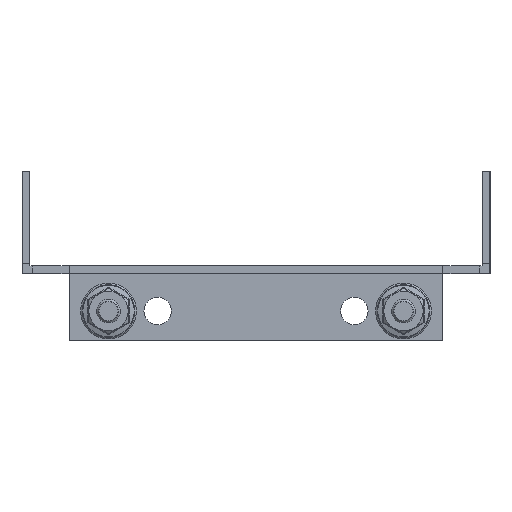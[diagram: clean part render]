
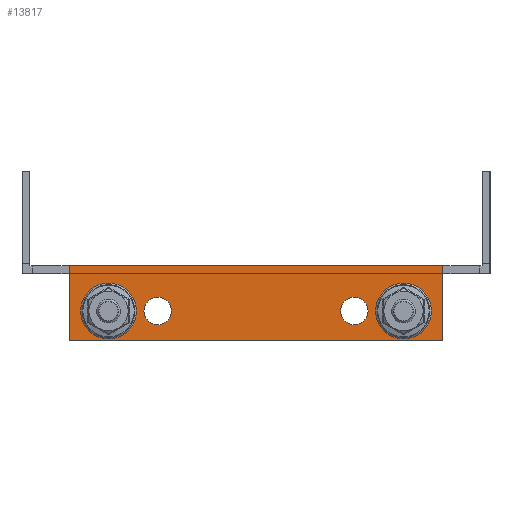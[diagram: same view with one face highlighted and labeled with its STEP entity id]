
A CAD part, left-side view. The second image highlights one B-rep face of the part: STEP entity #13817.
In plain terms, the highlighted planar face has unit normal (-1, 0, 0).
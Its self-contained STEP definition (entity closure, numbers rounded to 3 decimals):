
#2384 = VERTEX_POINT('',#2385);
#2385 = CARTESIAN_POINT('',(-350.,47.5,2.));
#2391 = EDGE_CURVE('',#2392,#2384,#2394,.T.);
#2392 = VERTEX_POINT('',#2393);
#2393 = CARTESIAN_POINT('',(-350.,-47.5,2.));
#2394 = LINE('',#2395,#2396);
#2395 = CARTESIAN_POINT('',(-350.,-57.5,2.));
#2396 = VECTOR('',#2397,1.);
#2397 = DIRECTION('',(-0.,1.,-0.));
#13696 = VERTEX_POINT('',#13697);
#13697 = CARTESIAN_POINT('',(-350.,-47.5,-0.6));
#13712 = EDGE_CURVE('',#13696,#2392,#13713,.T.);
#13713 = LINE('',#13714,#13715);
#13714 = CARTESIAN_POINT('',(-350.,-47.5,-0.6));
#13715 = VECTOR('',#13716,1.);
#13716 = DIRECTION('',(0.,-0.,1.));
#13736 = VERTEX_POINT('',#13737);
#13737 = CARTESIAN_POINT('',(-350.,47.5,-0.6));
#13743 = EDGE_CURVE('',#13736,#2384,#13744,.T.);
#13744 = LINE('',#13745,#13746);
#13745 = CARTESIAN_POINT('',(-350.,47.5,0.));
#13746 = VECTOR('',#13747,1.);
#13747 = DIRECTION('',(0.,0.,1.));
#13759 = EDGE_CURVE('',#13760,#13736,#13762,.T.);
#13760 = VERTEX_POINT('',#13761);
#13761 = CARTESIAN_POINT('',(-350.,47.5,-17.));
#13762 = LINE('',#13763,#13764);
#13763 = CARTESIAN_POINT('',(-350.,47.5,0.));
#13764 = VECTOR('',#13765,1.);
#13765 = DIRECTION('',(0.,-0.,1.));
#13799 = EDGE_CURVE('',#13696,#13800,#13802,.T.);
#13800 = VERTEX_POINT('',#13801);
#13801 = CARTESIAN_POINT('',(-350.,-47.5,-17.));
#13802 = LINE('',#13803,#13804);
#13803 = CARTESIAN_POINT('',(-350.,-47.5,-17.));
#13804 = VECTOR('',#13805,1.);
#13805 = DIRECTION('',(0.,-0.,-1.));
#13817 = ADVANCED_FACE('',(#13818,#13838,#13858,#13869,#13880),#13893,
  .T.);
#13818 = FACE_BOUND('',#13819,.T.);
#13819 = EDGE_LOOP('',(#13820,#13831));
#13820 = ORIENTED_EDGE('',*,*,#13821,.F.);
#13821 = EDGE_CURVE('',#13822,#13824,#13826,.T.);
#13822 = VERTEX_POINT('',#13823);
#13823 = CARTESIAN_POINT('',(-350.,-37.5,-13.));
#13824 = VERTEX_POINT('',#13825);
#13825 = CARTESIAN_POINT('',(-350.,-37.5,-6.));
#13826 = CIRCLE('',#13827,3.5);
#13827 = AXIS2_PLACEMENT_3D('',#13828,#13829,#13830);
#13828 = CARTESIAN_POINT('',(-350.,-37.5,-9.5));
#13829 = DIRECTION('',(-1.,0.,0.));
#13830 = DIRECTION('',(0.,0.,-1.));
#13831 = ORIENTED_EDGE('',*,*,#13832,.F.);
#13832 = EDGE_CURVE('',#13824,#13822,#13833,.T.);
#13833 = CIRCLE('',#13834,3.5);
#13834 = AXIS2_PLACEMENT_3D('',#13835,#13836,#13837);
#13835 = CARTESIAN_POINT('',(-350.,-37.5,-9.5));
#13836 = DIRECTION('',(-1.,0.,0.));
#13837 = DIRECTION('',(0.,0.,-1.));
#13838 = FACE_BOUND('',#13839,.T.);
#13839 = EDGE_LOOP('',(#13840,#13851));
#13840 = ORIENTED_EDGE('',*,*,#13841,.F.);
#13841 = EDGE_CURVE('',#13842,#13844,#13846,.T.);
#13842 = VERTEX_POINT('',#13843);
#13843 = CARTESIAN_POINT('',(-350.,-25.,-13.));
#13844 = VERTEX_POINT('',#13845);
#13845 = CARTESIAN_POINT('',(-350.,-25.,-6.));
#13846 = CIRCLE('',#13847,3.5);
#13847 = AXIS2_PLACEMENT_3D('',#13848,#13849,#13850);
#13848 = CARTESIAN_POINT('',(-350.,-25.,-9.5));
#13849 = DIRECTION('',(-1.,0.,0.));
#13850 = DIRECTION('',(0.,0.,-1.));
#13851 = ORIENTED_EDGE('',*,*,#13852,.F.);
#13852 = EDGE_CURVE('',#13844,#13842,#13853,.T.);
#13853 = CIRCLE('',#13854,3.5);
#13854 = AXIS2_PLACEMENT_3D('',#13855,#13856,#13857);
#13855 = CARTESIAN_POINT('',(-350.,-25.,-9.5));
#13856 = DIRECTION('',(-1.,0.,0.));
#13857 = DIRECTION('',(0.,0.,-1.));
#13858 = FACE_BOUND('',#13859,.T.);
#13859 = EDGE_LOOP('',(#13860));
#13860 = ORIENTED_EDGE('',*,*,#13861,.F.);
#13861 = EDGE_CURVE('',#13862,#13862,#13864,.T.);
#13862 = VERTEX_POINT('',#13863);
#13863 = CARTESIAN_POINT('',(-350.,25.,-6.));
#13864 = CIRCLE('',#13865,3.5);
#13865 = AXIS2_PLACEMENT_3D('',#13866,#13867,#13868);
#13866 = CARTESIAN_POINT('',(-350.,25.,-9.5));
#13867 = DIRECTION('',(-1.,0.,0.));
#13868 = DIRECTION('',(0.,0.,1.));
#13869 = FACE_BOUND('',#13870,.T.);
#13870 = EDGE_LOOP('',(#13871));
#13871 = ORIENTED_EDGE('',*,*,#13872,.F.);
#13872 = EDGE_CURVE('',#13873,#13873,#13875,.T.);
#13873 = VERTEX_POINT('',#13874);
#13874 = CARTESIAN_POINT('',(-350.,37.5,-6.));
#13875 = CIRCLE('',#13876,3.5);
#13876 = AXIS2_PLACEMENT_3D('',#13877,#13878,#13879);
#13877 = CARTESIAN_POINT('',(-350.,37.5,-9.5));
#13878 = DIRECTION('',(-1.,0.,0.));
#13879 = DIRECTION('',(0.,0.,1.));
#13880 = FACE_BOUND('',#13881,.T.);
#13881 = EDGE_LOOP('',(#13882,#13883,#13884,#13885,#13886,#13887));
#13882 = ORIENTED_EDGE('',*,*,#13799,.F.);
#13883 = ORIENTED_EDGE('',*,*,#13712,.T.);
#13884 = ORIENTED_EDGE('',*,*,#2391,.T.);
#13885 = ORIENTED_EDGE('',*,*,#13743,.F.);
#13886 = ORIENTED_EDGE('',*,*,#13759,.F.);
#13887 = ORIENTED_EDGE('',*,*,#13888,.F.);
#13888 = EDGE_CURVE('',#13800,#13760,#13889,.T.);
#13889 = LINE('',#13890,#13891);
#13890 = CARTESIAN_POINT('',(-350.,47.5,-17.));
#13891 = VECTOR('',#13892,1.);
#13892 = DIRECTION('',(-0.,1.,-0.));
#13893 = PLANE('',#13894);
#13894 = AXIS2_PLACEMENT_3D('',#13895,#13896,#13897);
#13895 = CARTESIAN_POINT('',(-350.,47.5,0.));
#13896 = DIRECTION('',(-1.,0.,0.));
#13897 = DIRECTION('',(0.,0.,1.));
